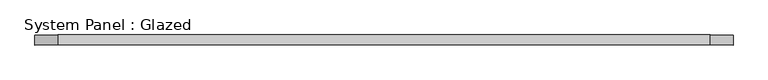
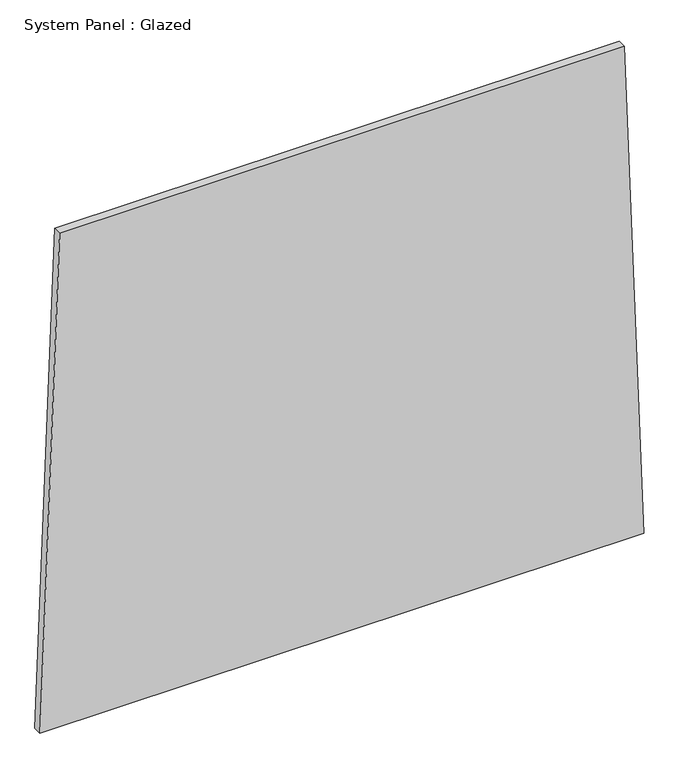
"""IFC4 building model written with IfcOpenShell, lengths in millimetres: plate geometry, System Panel : Glazed."""

from ifc_helpers import new_model, si_unit, frame, origin, place, context, project, spatial, polyline, outline, extrude, source, transform, mapped, element, save


def system_panel_glazed_2ce720db(model_context):
    return source(origin(), model_context, "Body", "SweptSolid", [
        extrude(outline(polyline([(0.0, -867.9925486), (0.0, 867.9925486), (1498.9382414, 811.5642725), (1498.9382414, -811.5642889), (0.0, -867.9925486)])), frame((0.0, -49.5, 0.0), z_axis=(0.0, 1.0, 0.0), x_axis=(0.0, 0.0, 1.0)), (0.0, 0.0, 1.0), 25.0),
    ])


if __name__ == "__main__":
    model = new_model("IFC4")
    model_context = context("Model", 3, world=origin())
    ifc_project = project(units=[si_unit("LENGTHUNIT", "METRE", prefix="MILLI")], contexts=[model_context])
    site = spatial("IfcSite", under=ifc_project)
    building = spatial("IfcBuilding", under=site)
    placement = place(None, origin())
    system_panel_glazed_shape = system_panel_glazed_2ce720db(model_context)
    element("IfcPlate", 1, ObjectType="System Panel : Glazed", at=placement, inside=building, context=model_context, shape_type="MappedRepresentation", body=[
        mapped(system_panel_glazed_shape, transform((0.0, 0.0, 0.0), x_axis=(1.0, 0.0, 0.0), y_axis=(0.0, 1.0, 0.0), z_axis=(0.0, 0.0, 1.0))),
    ])
    save(model, "model.ifc")
